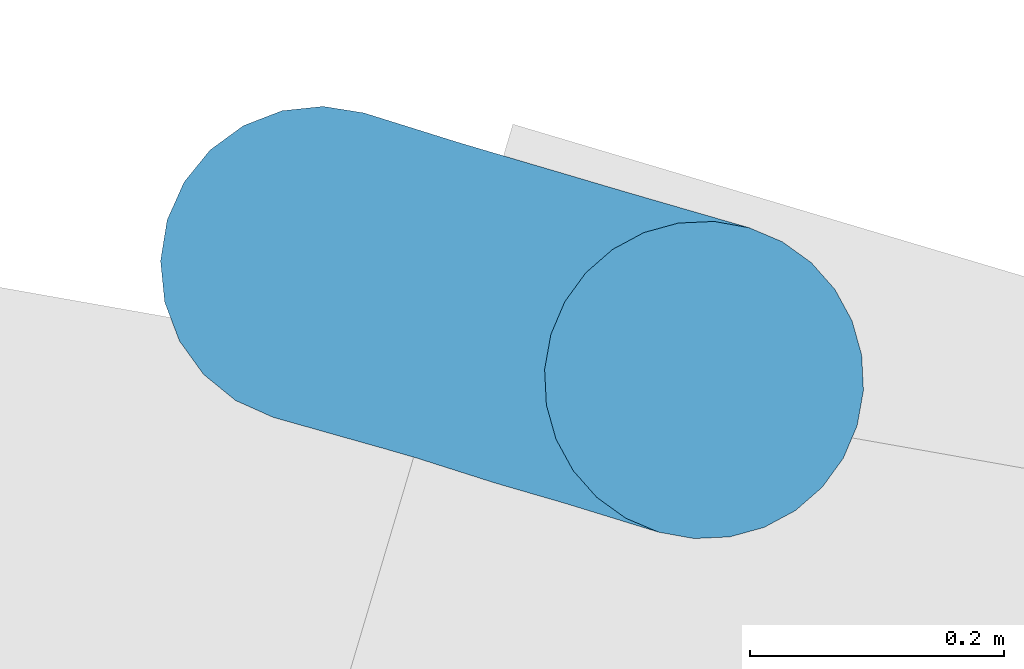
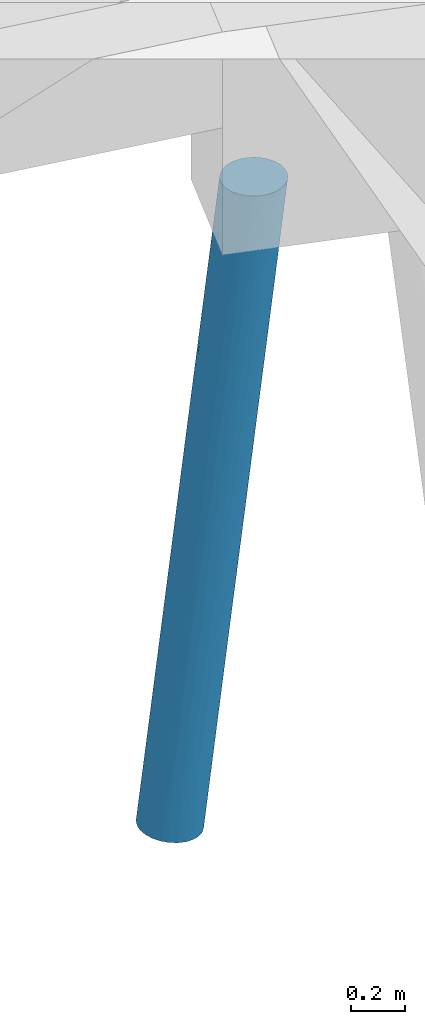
# One storey, part 44 of 46: 1 pile.
"""IFC2X3 building model written with IfcOpenShell, lengths in millimetres."""

from ifc_helpers import new_model, entity, si_unit, converted_unit, derived_unit, direction, frame, origin, place, context, subcontext, project, spatial, faceted_brep, source, transform, mapped, material, type_object, type_shapes, element, save


model = new_model("IFC2X3")

# Units and contexts
model_context = context("Model", 3, precision=0.01, world=origin(), true_north=direction((6.123233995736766e-17, 1.0)))
body_context = subcontext(model_context, "Body", "Model", "MODEL_VIEW")
ifc_project = project(units=[si_unit("LENGTHUNIT", "METRE", prefix="MILLI"), converted_unit("PLANEANGLEUNIT", "DEGREE", entity("IfcPlaneAngleMeasure", 0.017453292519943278), si_unit("PLANEANGLEUNIT", "RADIAN"), dimensions=[0, 0, 0, 0, 0, 0, 0]), si_unit("AREAUNIT", "SQUARE_METRE"), derived_unit("THERMALTRANSMITTANCEUNIT", [(si_unit("MASSUNIT", "GRAM", prefix="KILO"), 1), (si_unit("THERMODYNAMICTEMPERATUREUNIT", "KELVIN"), -1), (si_unit("TIMEUNIT", "SECOND"), -3)])], contexts=[model_context])

# Site, building, storey
site_placement = place(None, frame((-72937.88054949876, 11621.45624098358, 0.0), z_axis=(0.0, 0.0, 1.0), x_axis=(0.9346418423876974, -0.35559053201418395, 0.0)))
site = spatial("IfcSite", under=ifc_project, at=site_placement, Name="Default", CompositionType="ELEMENT")
building_placement = place(site_placement, origin())
building = spatial("IfcBuilding", under=site, at=building_placement, CompositionType="ELEMENT")
storey_placement = place(building_placement, origin())
storey = spatial("IfcBuildingStorey", under=building, at=storey_placement, Name="00 begane grond", CompositionType="ELEMENT", Elevation=0.0)

# Pile
ifc_material = material(Name="beton_gewapend_prefab-element_c45/55")
type_product = type_object("IfcTypeProduct", Name="Type 01", material=ifc_material)
shared_shape = source(origin(), body_context, "Body", "Brep", [
    faceted_brep([(124.838162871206, -27.815116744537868, -1150.0), (115.53639022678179, -54.2354673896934, -1150.0), (72.36643070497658, -41.239861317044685, -1587.2480771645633), (-111.09194578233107, -54.23546738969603, -1150.0), (-165.1894529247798, -41.33003827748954, -1588.444859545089), (-182.07875772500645, -65.1457063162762, -1842.6627389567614), (-30.14575159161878, -64.60051474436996, -2410.3553271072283), (32.98344934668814, -64.94314047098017, -1840.3127773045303), (15.031797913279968, -88.27496307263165, -1836.1297740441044), (41.77006032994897, 0.0, -1925.9925992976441), (100.55257203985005, -77.9362252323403, -1150.0), (80.6380595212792, -97.7289353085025, -1150.0), (-180.54618184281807, -99.16916754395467, -3483.986786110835), (-108.1734310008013, -106.74566752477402, -2732.5343267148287), (-175.6519081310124, -115.48494156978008, -3184.0354063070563), (-42.91884640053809, -117.90464735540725, -1932.203812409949), (56.79144948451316, -112.62110848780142, -1150.0), (30.20851053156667, -121.8659890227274, -1150.0), (-120.39371842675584, -27.81511674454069, -1150.0), (-242.98263969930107, -88.62069146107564, -2558.5627355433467), (-162.25875578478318, -88.50075404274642, -1830.9574517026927), (-245.70385641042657, -64.88368548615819, -2413.843724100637), (-194.4421984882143, -32.35238063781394, -4013.333582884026), (-133.56769714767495, -28.49629953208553, -3474.2266886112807), (-151.93048965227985, -53.33845094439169, -3561.073967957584), (12.222467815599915, -106.275938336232, -1655.8961403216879), (-23.42762089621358, -124.20079095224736, -1508.642990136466), (-80.64748703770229, -124.2366812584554, -1770.9263967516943), (-73.06982999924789, -124.27812918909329, -1949.101189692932), (-265.024992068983, -123.93060767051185, -3407.479310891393), (-314.4444444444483, -125.0, -4000.0), (-240.21076201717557, -123.93060767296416, -3479.642475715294), (-190.20897761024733, 0.0, -4013.803940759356), (-117.33081280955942, 0.0, -3357.900457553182), (-25.764066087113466, -121.86598902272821, -1150.0), (2.2222222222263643, -125.0, -1150.0), (-317.9689709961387, -23.60182842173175, -2920.157783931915), (-375.26894382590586, -28.366113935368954, -3445.0277270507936), (-326.96702366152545, -47.83542903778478, -3066.9425894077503), (-73.70805836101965, -23.187811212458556, -2945.6497765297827), (16.085837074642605, -41.18767244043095, -2093.938466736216), (-39.92708990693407, -41.47720200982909, -2597.136214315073), (-183.66520352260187, -123.01104339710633, -3024.1067526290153), (-196.28435151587, -123.47165352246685, -2760.09510592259), (-252.3267110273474, -108.25317547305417, -4006.901970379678), (-226.59670338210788, -88.38834764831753, -4009.7608601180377), (-206.8533741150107, -62.49999999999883, -4011.9545633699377), (-148.27550792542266, -76.09517863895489, -3402.494577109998), (-119.74622127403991, -106.37235269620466, -1653.229951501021), (-99.40312932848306, -118.21391771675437, -1696.7443345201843), (-52.347005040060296, -112.62110848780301, -1150.0), (-238.2779479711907, -106.2597512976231, -2718.3665211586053), (-185.92128902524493, -102.46025049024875, -2194.904710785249), (-42.820885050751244, -102.58547775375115, -2202.1491422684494), (-156.2252162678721, -118.09364807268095, -2204.9892079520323), (-264.72929865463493, -115.48494155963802, -3119.3954545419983), (-319.0271104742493, -115.48494156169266, -3608.075760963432), (-76.19361507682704, -97.72893530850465, -1150.0), (-96.10812759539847, -77.93622523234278, -1150.0), (-44.45199380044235, 0.0, -2701.9910864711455), (-1.3402226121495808, 0.0, -2313.985145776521), (-292.9202820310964, -72.79893776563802, -2886.1326580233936), (-292.6922084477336, -91.63383624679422, -3034.349570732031), (-282.2899395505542, -120.74072828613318, -4003.5727227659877), (-227.3188222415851, -115.48494156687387, -3649.037633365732), (-209.76851175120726, 0.0, -1925.9934634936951), (-221.60043037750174, -41.38232604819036, -2096.3096577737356), (-376.56217786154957, -108.25317547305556, -3993.0980296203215), (-346.59894933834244, -120.74072828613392, -3996.4272772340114), (-66.21715172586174, -88.15377228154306, -2568.4634430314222), (-129.97696806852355, -118.32629651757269, -2704.7019880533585), (-123.5470158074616, 0.0, -1150.0), (-377.52744650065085, -52.97984274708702, -3542.5215927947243), (-345.70385271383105, -76.09517862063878, -3383.3196685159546), (-275.8885685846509, -42.22399193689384, -2587.6075033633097), (-422.0355147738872, -62.50000000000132, -3988.0454366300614), (-402.29218550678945, -88.38834764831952, -3990.239139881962), (-331.8470727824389, -99.16916753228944, -3467.5525053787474), (-132.4434459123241, -124.68323586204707, -2281.458802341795), (-96.52658231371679, -47.8354290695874, -3084.4998642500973), (-89.11715414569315, -71.65077909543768, -2899.5648185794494), (127.99146025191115, 0.0, -1150.0), (-252.87925972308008, 0.0, -2313.9901952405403), (-122.93481462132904, -90.89446365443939, -3053.447507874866), (-434.4466904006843, -32.352380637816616, -3986.6664171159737), (-438.679911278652, 0.0, -3986.1960592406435), (-141.73877836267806, -124.16072599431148, -2576.5969257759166), (-210.06991733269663, -117.23436667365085, -2667.8819222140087), (-295.9900076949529, 0.0, -2701.9869269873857), (-367.3349594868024, 0.0, -3344.0914931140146), (124.83816287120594, 27.815116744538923, -1150.0), (115.53639022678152, 54.23546738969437, -1150.0), (100.55257203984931, 77.93622523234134, -1150.0), (80.63805952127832, 97.7289353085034, -1150.0), (56.79144948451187, 112.62110848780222, -1150.0), (30.20851053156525, 121.86598902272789, -1150.0), (2.22222222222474, 125.0, -1150.0), (-25.76406608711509, 121.86598902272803, -1150.0), (-52.34700504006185, 112.62110848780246, -1150.0), (-76.1936150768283, 97.72893530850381, -1150.0), (-96.10812759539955, 77.93622523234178, -1150.0), (-111.09194578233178, 54.23546738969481, -1150.0), (-120.39371842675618, 27.815116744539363, -1150.0), (-96.52658225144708, 47.83542901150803, -3084.4998639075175), (-133.5676976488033, 28.496299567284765, -3474.2266930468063), (-151.9304895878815, 53.338451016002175, -3561.073967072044), (-176.7825211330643, 87.58614607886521, -1953.453255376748), (-126.78568187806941, 88.44799753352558, -1511.2211246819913), (-140.32328536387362, 105.94191584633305, -1832.1538289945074), (-185.53475823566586, 41.3488976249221, -1771.6124540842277), (-98.5233768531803, 124.24251446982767, -1932.2861052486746), (-159.3540506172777, 67.83984168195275, -1653.46778938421), (-221.49211536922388, 66.66107193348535, -2205.8974607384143), (-402.2921855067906, 88.38834764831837, -3990.239139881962), (-352.8086337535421, 76.09517892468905, -3447.262699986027), (-312.10423006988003, 99.16916769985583, -3289.866922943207), (-282.2899395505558, 120.74072828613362, -4003.5727227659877), (-314.44444444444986, 125.0, -4000.0), (-235.4135805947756, 123.93060766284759, -3436.467843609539), (-362.94366171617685, 26.27355326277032, -3329.855963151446), (-328.2998352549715, 47.83542988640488, -3078.9378969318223), (-384.2243809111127, 47.83542945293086, -3582.258806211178), (-376.562177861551, 108.25317547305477, -3993.0980296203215), (-180.54618171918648, 99.16916751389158, -3483.9867853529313), (-148.27550783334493, 76.0951785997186, -3402.49457655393), (-226.59670338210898, 88.38834764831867, -4009.7608601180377), (-163.5203657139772, 118.46525212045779, -2280.489865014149), (-104.92272192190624, 118.27912572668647, -1748.143371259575), (-89.11715398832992, 71.6507788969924, -2899.5648184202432), (-39.927089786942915, 41.4772017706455, -2597.1362139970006), (-274.28881423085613, 82.15433137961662, -2785.484682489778), (-221.11735801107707, 106.04994682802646, -2560.8655013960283), (-422.03551477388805, 62.49999999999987, -3988.0454366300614), (-434.4466904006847, 32.35238063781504, -3986.6664171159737), (-180.90977316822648, 122.95522291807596, -3002.0876370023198), (-141.73877802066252, 124.16072595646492, -2576.596925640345), (-129.97696798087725, 118.32629644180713, -2704.701989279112), (-180.2811496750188, 124.04234815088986, -2652.685215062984), (-242.59310629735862, 123.930607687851, -3205.592340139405), (-232.5682987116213, 117.68101498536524, -2881.4778788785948), (-301.7888662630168, 115.48494161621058, -3452.931564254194), (-346.598949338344, 120.7407282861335, -3996.4272772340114), (-206.85337411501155, 62.50000000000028, -4011.9545633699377), (-42.918846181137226, 117.90464729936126, -1932.2038118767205), (-83.49872980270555, 124.18127902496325, -2050.8284888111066), (-29.55955353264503, 124.19873841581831, -1563.9938530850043), (15.03179802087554, 88.27496298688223, -1836.1297738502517), (32.983449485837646, 64.94314037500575, -1840.3127765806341), (-30.14575143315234, 64.60051457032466, -2410.3553266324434), (-42.820884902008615, 102.58547764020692, -2202.149142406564), (12.222467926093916, 106.27593827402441, -1655.89614023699), (-73.70805863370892, 23.18781108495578, -2945.6497792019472), (16.08583725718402, 41.18767230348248, -2093.9384655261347), (72.36643080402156, 41.2398612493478, -1587.2480764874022), (-221.94118502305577, 91.78881553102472, -2399.105716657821), (-108.17343087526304, 106.7456674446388, -2732.5343267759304), (-66.2171515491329, 88.15377212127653, -2568.463442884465), (-122.93481449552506, 90.89446347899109, -3053.447508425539), (-262.27997921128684, 34.77836369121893, -2443.29023072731), (-227.3188223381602, 115.48494155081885, -3649.037634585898), (-252.32671102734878, 108.25317547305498, -4006.901970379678), (-277.036285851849, 61.03344887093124, -2675.5040755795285), (-194.44219848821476, 32.35238063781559, -4013.333582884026), (-312.1095376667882, 26.52940126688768, -2872.8494770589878), (-175.65190824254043, 115.48494153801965, -3184.035408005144)], [[[0, 1, 2]], [[3, 4, 5]], [[6, 7, 8]], [[9, 0, 2]], [[8, 10, 11]], [[12, 13, 14]], [[15, 16, 17]], [[4, 3, 18]], [[19, 20, 21]], [[22, 23, 24]], [[11, 16, 25]], [[26, 27, 28]], [[29, 30, 31]], [[32, 33, 23]], [[10, 8, 7]], [[34, 27, 35]], [[36, 37, 38]], [[33, 39, 23]], [[40, 6, 41]], [[42, 43, 29]], [[44, 45, 12]], [[20, 5, 21]], [[26, 17, 35]], [[45, 46, 47]], [[48, 49, 50]], [[19, 51, 52]], [[53, 25, 15]], [[46, 24, 47]], [[48, 54, 49]], [[55, 56, 29]], [[57, 58, 20]], [[40, 59, 60, 9]], [[61, 62, 19]], [[2, 7, 40]], [[63, 44, 64]], [[65, 66, 4]], [[3, 5, 58]], [[20, 52, 48]], [[67, 68, 56]], [[29, 43, 55]], [[69, 53, 13]], [[13, 70, 14]], [[18, 71, 65]], [[72, 73, 38]], [[68, 30, 29]], [[74, 36, 38]], [[62, 51, 19]], [[38, 61, 74]], [[37, 72, 38]], [[75, 76, 73]], [[76, 77, 73]], [[57, 20, 48]], [[12, 45, 47]], [[6, 40, 7]], [[78, 54, 43]], [[27, 78, 28]], [[79, 41, 80]], [[81, 0, 9]], [[66, 65, 82]], [[41, 39, 59]], [[13, 12, 83]], [[76, 67, 77]], [[84, 37, 85]], [[21, 61, 19]], [[30, 63, 31]], [[31, 42, 29]], [[47, 80, 83]], [[64, 12, 14]], [[56, 77, 67]], [[51, 62, 77]], [[64, 31, 63]], [[14, 70, 42]], [[1, 10, 7]], [[9, 2, 40]], [[7, 2, 1]], [[6, 8, 69]], [[80, 6, 69]], [[6, 80, 41]], [[65, 4, 18]], [[5, 4, 66]], [[5, 66, 21]], [[58, 5, 20]], [[74, 21, 66]], [[61, 38, 73]], [[78, 43, 86]], [[55, 87, 51]], [[83, 80, 69]], [[79, 80, 47]], [[83, 69, 13]], [[47, 83, 12]], [[53, 69, 8]], [[70, 15, 86]], [[25, 53, 8]], [[70, 53, 15]], [[11, 25, 8]], [[15, 25, 16]], [[39, 41, 79]], [[59, 40, 41]], [[23, 39, 79]], [[33, 59, 39]], [[24, 23, 79]], [[32, 23, 22]], [[47, 24, 79]], [[22, 24, 46]], [[61, 21, 74]], [[62, 73, 77]], [[73, 62, 61]], [[51, 77, 55]], [[87, 55, 43]], [[19, 52, 20]], [[51, 54, 52]], [[27, 49, 54]], [[54, 48, 52]], [[57, 48, 50]], [[70, 13, 53]], [[42, 70, 86]], [[43, 42, 86]], [[14, 42, 31]], [[29, 56, 68]], [[74, 66, 82]], [[88, 89, 36, 82]], [[37, 36, 89]], [[85, 37, 89]], [[72, 84, 75]], [[84, 72, 37]], [[73, 72, 75]], [[43, 54, 87]], [[54, 51, 87]], [[36, 74, 82]], [[77, 56, 55]], [[28, 86, 15]], [[54, 78, 27]], [[86, 28, 78]], [[26, 15, 17]], [[27, 26, 35]], [[15, 26, 28]], [[12, 64, 44]], [[31, 64, 14]], [[27, 34, 49]], [[50, 49, 34]], [[34, 35, 17, 16, 11, 10, 1, 0, 81, 90, 91, 92, 93, 94, 95, 96, 97, 98, 99, 100, 101, 102, 71, 18, 3, 58, 57, 50]], [[103, 104, 105]], [[90, 81, 9]], [[106, 107, 108]], [[109, 102, 101]], [[110, 97, 96]], [[111, 112, 109]], [[113, 114, 115]], [[116, 117, 118]], [[98, 108, 99]], [[119, 120, 121]], [[113, 115, 122]], [[106, 112, 111]], [[123, 124, 125]], [[110, 126, 127]], [[119, 85, 89]], [[65, 71, 102]], [[103, 128, 129]], [[115, 130, 131]], [[108, 127, 126]], [[132, 133, 121]], [[134, 135, 136]], [[137, 138, 139]], [[140, 141, 122]], [[142, 125, 124]], [[143, 144, 145]], [[146, 147, 148]], [[146, 149, 150]], [[130, 115, 114]], [[151, 104, 103]], [[143, 136, 144]], [[9, 152, 153]], [[140, 122, 115]], [[143, 95, 94]], [[98, 97, 127]], [[92, 146, 93]], [[138, 140, 139]], [[131, 130, 154]], [[129, 151, 103]], [[117, 141, 138]], [[118, 117, 138]], [[155, 156, 157]], [[96, 95, 145]], [[109, 158, 65]], [[116, 159, 160]], [[143, 149, 136]], [[153, 91, 90]], [[105, 124, 103]], [[112, 158, 109]], [[146, 148, 156]], [[100, 111, 101]], [[128, 157, 156]], [[147, 92, 91]], [[91, 153, 147]], [[150, 93, 146]], [[156, 155, 149]], [[161, 158, 112]], [[65, 102, 109]], [[113, 132, 114]], [[139, 140, 115]], [[125, 160, 123]], [[152, 9, 60]], [[162, 104, 32]], [[148, 128, 156]], [[138, 137, 134]], [[163, 158, 120]], [[159, 118, 164]], [[121, 114, 132]], [[130, 161, 112]], [[161, 114, 120]], [[112, 106, 154]], [[139, 115, 131]], [[138, 141, 140]], [[163, 120, 119]], [[158, 88, 82, 65]], [[159, 123, 160]], [[155, 157, 123]], [[9, 153, 90]], [[147, 153, 152]], [[147, 152, 148]], [[92, 147, 146]], [[129, 148, 152]], [[128, 103, 124]], [[131, 126, 139]], [[135, 134, 137]], [[108, 126, 131]], [[110, 144, 137]], [[139, 126, 137]], [[110, 137, 126]], [[128, 148, 129]], [[157, 124, 123]], [[124, 157, 128]], [[155, 123, 164]], [[136, 155, 164]], [[156, 149, 146]], [[136, 149, 155]], [[150, 143, 94]], [[143, 150, 149]], [[93, 150, 94]], [[101, 111, 109]], [[129, 152, 60]], [[59, 33, 151]], [[104, 151, 33]], [[32, 104, 33]], [[105, 162, 142]], [[162, 105, 104]], [[124, 105, 142]], [[98, 127, 108]], [[97, 110, 127]], [[134, 164, 118]], [[136, 135, 144]], [[164, 134, 136]], [[138, 134, 118]], [[133, 85, 119]], [[114, 121, 120]], [[133, 119, 121]], [[163, 89, 88]], [[89, 163, 119]], [[88, 158, 163]], [[59, 151, 129]], [[60, 59, 129]], [[100, 99, 107]], [[111, 100, 107]], [[154, 108, 131]], [[108, 107, 99]], [[111, 107, 106]], [[137, 144, 135]], [[145, 110, 96]], [[143, 145, 95]], [[110, 145, 144]], [[118, 159, 116]], [[123, 159, 164]], [[114, 161, 130]], [[158, 161, 120]], [[112, 154, 130]], [[108, 154, 106]], [[141, 117, 116, 160, 125, 142, 162, 32, 22, 46, 45, 44, 63, 30, 68, 67, 76, 75, 84, 85, 133, 132, 113, 122]]]),
])
type_shapes(type_product, [shared_shape])
pile_placement = place(storey_placement, frame((65972.20894100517, 35609.49771596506, 0.0), z_axis=(0.0, 0.0, 1.0), x_axis=(0.9972637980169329, 0.07392507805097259, 0.0)))
element("IfcPile", 1, at=pile_placement, inside=storey, type_object=type_product, material=ifc_material, Name="17.21_Prefab funderingspaal rond", ObjectType="prefab paal rond", PredefinedType="NOTDEFINED", context=body_context, shape_type="MappedRepresentation", body=[
    mapped(shared_shape, transform((0.0, 0.0, 0.0), scale=1.0)),
])

save(model, "model.ifc")
